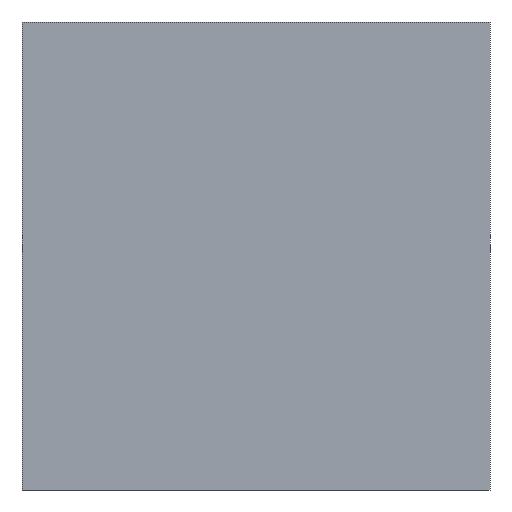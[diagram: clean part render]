
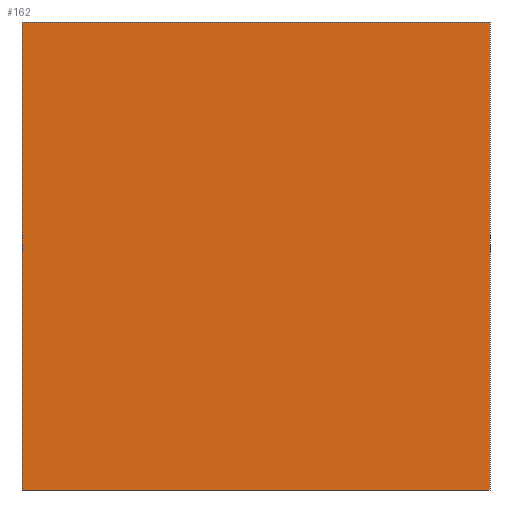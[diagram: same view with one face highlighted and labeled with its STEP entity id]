
A CAD part, front view. The second image highlights one B-rep face of the part: STEP entity #162.
In plain terms, the highlighted planar face has unit normal (0, -1, 0).
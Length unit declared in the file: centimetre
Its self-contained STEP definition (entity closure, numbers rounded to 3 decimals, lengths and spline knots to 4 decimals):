
#4 = LINE ( 'NONE', #249, #289 ) ;
#8 = FACE_OUTER_BOUND ( 'NONE', #33, .T. ) ;
#14 = VECTOR ( 'NONE', #77, 100. ) ;
#24 = CARTESIAN_POINT ( 'NONE',  ( 0., 0., 0. ) ) ;
#33 = EDGE_LOOP ( 'NONE', ( #404, #336, #91, #294 ) ) ;
#56 = EDGE_CURVE ( 'NONE', #275, #360, #4, .T. ) ;
#66 = VECTOR ( 'NONE', #168, 100. ) ;
#77 = DIRECTION ( 'NONE',  ( 1., 0., 0. ) ) ;
#91 = ORIENTED_EDGE ( 'NONE', *, *, #125, .F. ) ;
#115 = CARTESIAN_POINT ( 'NONE',  ( 0., 0., 1000. ) ) ;
#125 = EDGE_CURVE ( 'NONE', #275, #241, #138, .T. ) ;
#130 = DIRECTION ( 'NONE',  ( 0., 0., -1. ) ) ;
#131 = DIRECTION ( 'NONE',  ( 1., 0., 0. ) ) ;
#132 = AXIS2_PLACEMENT_3D ( 'NONE', #199, #384, #140 ) ;
#133 = EDGE_CURVE ( 'NONE', #241, #365, #200, .T. ) ;
#138 = LINE ( 'NONE', #222, #186 ) ;
#140 = DIRECTION ( 'NONE',  ( 0., 0., 1. ) ) ;
#162 = ADVANCED_FACE ( 'NONE', ( #8 ), #377, .F. ) ;
#168 = DIRECTION ( 'NONE',  ( 0., 0., -1. ) ) ;
#171 = CARTESIAN_POINT ( 'NONE',  ( 1000., 0., 1000. ) ) ;
#174 = CARTESIAN_POINT ( 'NONE',  ( 1000., 0., 0. ) ) ;
#186 = VECTOR ( 'NONE', #131, 100. ) ;
#199 = CARTESIAN_POINT ( 'NONE',  ( 0., 0., 1000. ) ) ;
#200 = LINE ( 'NONE', #314, #66 ) ;
#222 = CARTESIAN_POINT ( 'NONE',  ( 0., 0., 1000. ) ) ;
#231 = CARTESIAN_POINT ( 'NONE',  ( 0., 0., 0. ) ) ;
#241 = VERTEX_POINT ( 'NONE', #171 ) ;
#249 = CARTESIAN_POINT ( 'NONE',  ( 0., 0., 1000. ) ) ;
#275 = VERTEX_POINT ( 'NONE', #115 ) ;
#282 = EDGE_CURVE ( 'NONE', #360, #365, #322, .T. ) ;
#289 = VECTOR ( 'NONE', #130, 100. ) ;
#294 = ORIENTED_EDGE ( 'NONE', *, *, #56, .T. ) ;
#314 = CARTESIAN_POINT ( 'NONE',  ( 1000., 0., 1000. ) ) ;
#322 = LINE ( 'NONE', #24, #14 ) ;
#336 = ORIENTED_EDGE ( 'NONE', *, *, #133, .F. ) ;
#360 = VERTEX_POINT ( 'NONE', #231 ) ;
#365 = VERTEX_POINT ( 'NONE', #174 ) ;
#377 = PLANE ( 'NONE',  #132 ) ;
#384 = DIRECTION ( 'NONE',  ( 0., 1., 0. ) ) ;
#404 = ORIENTED_EDGE ( 'NONE', *, *, #282, .T. ) ;
